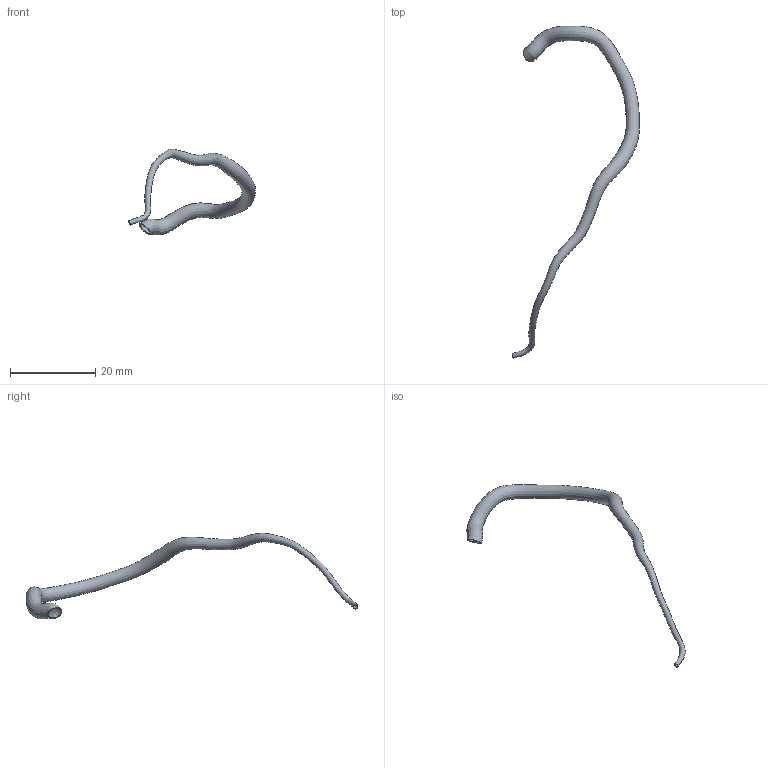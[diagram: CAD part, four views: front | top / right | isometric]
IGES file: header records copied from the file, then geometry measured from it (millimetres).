
Global section: file name: C:\Documents and Settings\Administrator\Desktop\FDA-Pig\Domestic RCA\Pig_000006\rca.seg.ed.igs; native system: Rhinoceros ( May 19 2006 ); preprocessor: Trout Lake IGES 012 May 19 2006; date: 111205.185355; units: centimetre
Bounding box: 29.85 x 78 x 20.11 mm (x, y, z)
Surface area: 1803.6 mm2 (no closed solid volume)
Topology: 0 solids, 0 shells, 4 faces, 13 edges, 10 vertices
Faces by surface type: bspline 4
